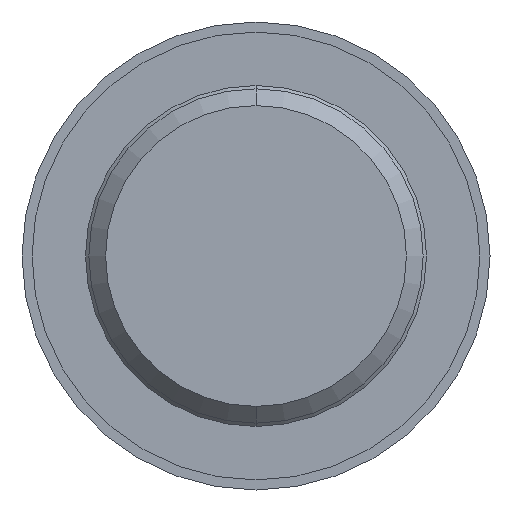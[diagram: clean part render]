
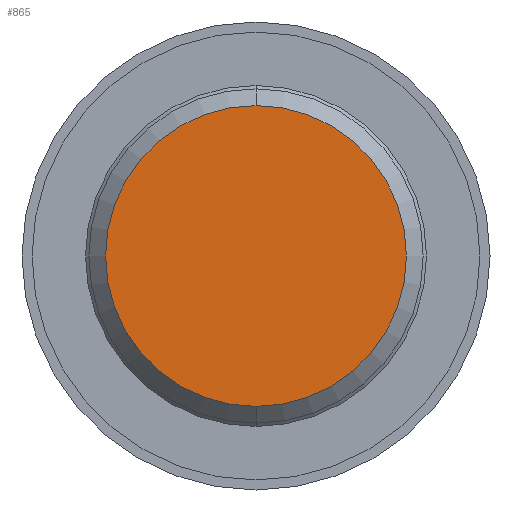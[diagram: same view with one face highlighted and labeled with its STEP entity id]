
A CAD part, front view. The second image highlights one B-rep face of the part: STEP entity #865.
In plain terms, the highlighted planar face has unit normal (0, -1, 0).
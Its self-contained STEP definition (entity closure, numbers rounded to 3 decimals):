
#38 = EDGE_LOOP ( 'NONE', ( #174, #756 ) ) ;
#78 = DIRECTION ( 'NONE',  ( 0., 0., 1. ) ) ;
#115 = CARTESIAN_POINT ( 'NONE',  ( 4.5, 0., 0. ) ) ;
#174 = ORIENTED_EDGE ( 'NONE', *, *, #730, .F. ) ;
#183 = PLANE ( 'NONE',  #271 ) ;
#222 = CARTESIAN_POINT ( 'NONE',  ( 0., 0., 0. ) ) ;
#232 = EDGE_CURVE ( 'NONE', #597, #751, #837, .T. ) ;
#271 = AXIS2_PLACEMENT_3D ( 'NONE', #115, #471, #939 ) ;
#276 = DIRECTION ( 'NONE',  ( 0., 0., 1. ) ) ;
#314 = CARTESIAN_POINT ( 'NONE',  ( 0., 0., 4.5 ) ) ;
#454 = AXIS2_PLACEMENT_3D ( 'NONE', #950, #652, #276 ) ;
#471 = DIRECTION ( 'NONE',  ( 0., 1., 0. ) ) ;
#565 = CIRCLE ( 'NONE', #715, 4.5 ) ;
#597 = VERTEX_POINT ( 'NONE', #739 ) ;
#652 = DIRECTION ( 'NONE',  ( 0., 1., 0. ) ) ;
#715 = AXIS2_PLACEMENT_3D ( 'NONE', #222, #758, #78 ) ;
#730 = EDGE_CURVE ( 'NONE', #751, #597, #565, .T. ) ;
#739 = CARTESIAN_POINT ( 'NONE',  ( 0., 0., -4.5 ) ) ;
#751 = VERTEX_POINT ( 'NONE', #314 ) ;
#756 = ORIENTED_EDGE ( 'NONE', *, *, #232, .F. ) ;
#758 = DIRECTION ( 'NONE',  ( 0., 1., 0. ) ) ;
#837 = CIRCLE ( 'NONE', #454, 4.5 ) ;
#861 = FACE_OUTER_BOUND ( 'NONE', #38, .T. ) ;
#865 = ADVANCED_FACE ( 'NONE', ( #861 ), #183, .F. ) ;
#939 = DIRECTION ( 'NONE',  ( 0., 0., 1. ) ) ;
#950 = CARTESIAN_POINT ( 'NONE',  ( 0., 0., 0. ) ) ;
